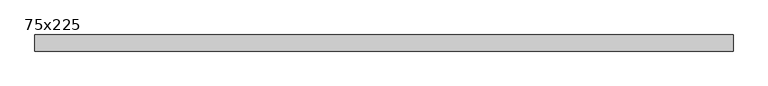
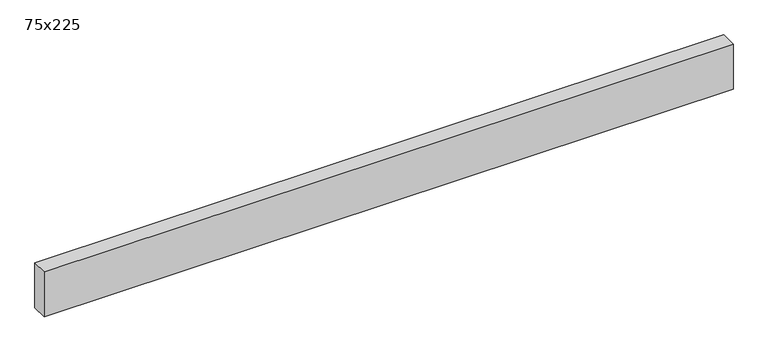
"""IFC4 building model written with IfcOpenShell, lengths in millimetres: beam geometry, Madrier : 75x225."""

from ifc_helpers import new_model, si_unit, frame, origin, place, context, project, spatial, polyline, outline, extrude, source, transform, mapped, element, save


def beam_75x225_1d599c9f(model_context):
    return source(origin(), model_context, "Body", "SweptSolid", [
        extrude(outline(polyline([(1585.0, 37.5), (1585.0, -37.5), (-1657.5, -37.5), (-1657.5, 37.5), (1585.0, 37.5)])), frame((0.0, 0.0, -112.5), z_axis=(0.0, 0.0, 1.0), x_axis=(1.0, 0.0, 0.0)), (0.0, 0.0, 1.0), 225.0),
    ])


if __name__ == "__main__":
    model = new_model("IFC4")
    model_context = context("Model", 3, world=origin())
    ifc_project = project(units=[si_unit("LENGTHUNIT", "METRE", prefix="MILLI")], contexts=[model_context])
    site = spatial("IfcSite", under=ifc_project)
    building = spatial("IfcBuilding", under=site)
    placement = place(None, origin())
    beam_75x225_shape = beam_75x225_1d599c9f(model_context)
    element("IfcBeam", 1, ObjectType="Madrier : 75x225", at=placement, inside=building, context=model_context, shape_type="MappedRepresentation", body=[
        mapped(beam_75x225_shape, transform((0.0, 0.0, 0.0), x_axis=(1.0, 0.0, 0.0), y_axis=(0.0, 1.0, 0.0), z_axis=(0.0, 0.0, 1.0))),
    ])
    save(model, "model.ifc")
